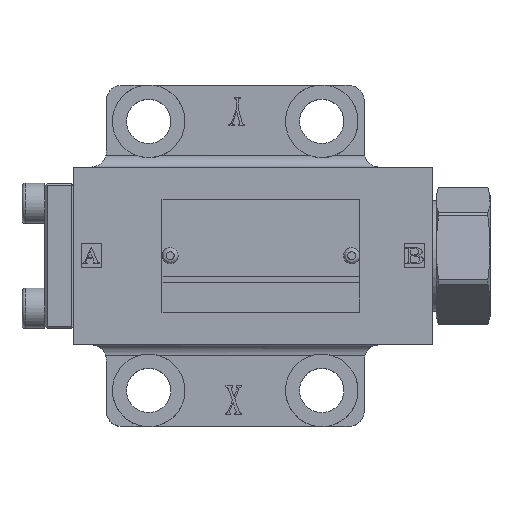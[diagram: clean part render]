
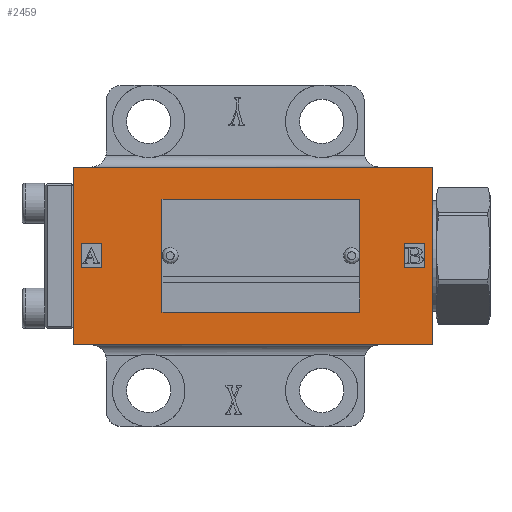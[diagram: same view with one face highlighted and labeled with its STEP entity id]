
A CAD part, top view. The second image highlights one B-rep face of the part: STEP entity #2459.
In plain terms, the highlighted planar face has unit normal (0, 0, 1).
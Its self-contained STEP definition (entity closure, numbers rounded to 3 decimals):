
#2459=ADVANCED_FACE('',(#4304,#4305,#4306,#4307,#4308),#2870,.T.);
#2870=PLANE('',#9965);
#3287=LINE('',#34120,#3853);
#3288=LINE('',#34123,#3854);
#3289=LINE('',#34125,#3855);
#3290=LINE('',#34127,#3856);
#3291=LINE('',#34128,#3857);
#3292=LINE('',#34131,#3858);
#3293=LINE('',#34133,#3859);
#3294=LINE('',#34135,#3860);
#3295=LINE('',#34140,#3861);
#3296=LINE('',#34143,#3862);
#3297=LINE('',#34145,#3863);
#3298=LINE('',#34147,#3864);
#3853=VECTOR('',#11436,1.);
#3854=VECTOR('',#11437,1.);
#3855=VECTOR('',#11438,1.);
#3856=VECTOR('',#11439,1.);
#3857=VECTOR('',#11440,1.);
#3858=VECTOR('',#11441,1.);
#3859=VECTOR('',#11442,1.);
#3860=VECTOR('',#11443,1.);
#3861=VECTOR('',#11448,1.);
#3862=VECTOR('',#11449,1.);
#3863=VECTOR('',#11450,1.);
#3864=VECTOR('',#11451,1.);
#4304=FACE_BOUND('',#4728,.T.);
#4305=FACE_BOUND('',#4729,.T.);
#4306=FACE_BOUND('',#4730,.T.);
#4307=FACE_BOUND('',#4731,.T.);
#4308=FACE_BOUND('',#4732,.T.);
#4728=EDGE_LOOP('',(#6091,#6092,#6093,#6094));
#4729=EDGE_LOOP('',(#6095,#6096,#6097,#6098));
#4730=EDGE_LOOP('',(#6099));
#4731=EDGE_LOOP('',(#6100));
#4732=EDGE_LOOP('',(#6101,#6102,#6103,#6104));
#6091=ORIENTED_EDGE('',*,*,#8751,.F.);
#6092=ORIENTED_EDGE('',*,*,#8752,.F.);
#6093=ORIENTED_EDGE('',*,*,#8753,.F.);
#6094=ORIENTED_EDGE('',*,*,#8754,.F.);
#6095=ORIENTED_EDGE('',*,*,#8755,.F.);
#6096=ORIENTED_EDGE('',*,*,#8756,.F.);
#6097=ORIENTED_EDGE('',*,*,#8757,.F.);
#6098=ORIENTED_EDGE('',*,*,#8758,.F.);
#6099=ORIENTED_EDGE('',*,*,#8759,.F.);
#6100=ORIENTED_EDGE('',*,*,#8760,.F.);
#6101=ORIENTED_EDGE('',*,*,#8761,.F.);
#6102=ORIENTED_EDGE('',*,*,#8762,.F.);
#6103=ORIENTED_EDGE('',*,*,#8763,.F.);
#6104=ORIENTED_EDGE('',*,*,#8764,.F.);
#7825=VERTEX_POINT('',#34121);
#7826=VERTEX_POINT('',#34122);
#7827=VERTEX_POINT('',#34124);
#7828=VERTEX_POINT('',#34126);
#7829=VERTEX_POINT('',#34129);
#7830=VERTEX_POINT('',#34130);
#7831=VERTEX_POINT('',#34132);
#7832=VERTEX_POINT('',#34134);
#7833=VERTEX_POINT('',#34137);
#7834=VERTEX_POINT('',#34139);
#7835=VERTEX_POINT('',#34141);
#7836=VERTEX_POINT('',#34142);
#7837=VERTEX_POINT('',#34144);
#7838=VERTEX_POINT('',#34146);
#8751=EDGE_CURVE('',#7825,#7826,#3287,.T.);
#8752=EDGE_CURVE('',#7827,#7825,#3288,.T.);
#8753=EDGE_CURVE('',#7828,#7827,#3289,.T.);
#8754=EDGE_CURVE('',#7826,#7828,#3290,.T.);
#8755=EDGE_CURVE('',#7829,#7830,#3291,.T.);
#8756=EDGE_CURVE('',#7831,#7829,#3292,.T.);
#8757=EDGE_CURVE('',#7832,#7831,#3293,.T.);
#8758=EDGE_CURVE('',#7830,#7832,#3294,.T.);
#8759=EDGE_CURVE('',#7833,#7833,#9446,.T.);
#8760=EDGE_CURVE('',#7834,#7834,#9447,.T.);
#8761=EDGE_CURVE('',#7835,#7836,#3295,.T.);
#8762=EDGE_CURVE('',#7837,#7835,#3296,.T.);
#8763=EDGE_CURVE('',#7838,#7837,#3297,.T.);
#8764=EDGE_CURVE('',#7836,#7838,#3298,.T.);
#9446=CIRCLE('',#9963,0.95);
#9447=CIRCLE('',#9964,0.95);
#9963=AXIS2_PLACEMENT_3D('',#34136,#11444,#11445);
#9964=AXIS2_PLACEMENT_3D('',#34138,#11446,#11447);
#9965=AXIS2_PLACEMENT_3D('',#34148,#11452,#11453);
#11436=DIRECTION('',(0.,-1.,0.));
#11437=DIRECTION('',(-1.,0.,0.));
#11438=DIRECTION('',(0.,1.,0.));
#11439=DIRECTION('',(1.,0.,0.));
#11440=DIRECTION('',(0.,-1.,0.));
#11441=DIRECTION('',(-1.,0.,0.));
#11442=DIRECTION('',(0.,1.,0.));
#11443=DIRECTION('',(1.,0.,0.));
#11444=DIRECTION('',(0.,0.,1.));
#11445=DIRECTION('',(1.,0.,0.));
#11446=DIRECTION('',(0.,0.,1.));
#11447=DIRECTION('',(1.,0.,0.));
#11448=DIRECTION('',(-1.,0.,0.));
#11449=DIRECTION('',(0.,-1.,0.));
#11450=DIRECTION('',(1.,0.,0.));
#11451=DIRECTION('',(0.,1.,0.));
#11452=DIRECTION('',(0.,0.,1.));
#11453=DIRECTION('',(-1.,0.,0.));
#34120=CARTESIAN_POINT('',(206.361,122.156,0.));
#34121=CARTESIAN_POINT('',(206.361,122.156,0.));
#34122=CARTESIAN_POINT('',(206.361,116.156,0.));
#34123=CARTESIAN_POINT('',(211.361,122.156,0.));
#34124=CARTESIAN_POINT('',(211.361,122.156,0.));
#34125=CARTESIAN_POINT('',(211.361,116.156,0.));
#34126=CARTESIAN_POINT('',(211.361,116.156,0.));
#34127=CARTESIAN_POINT('',(206.361,116.156,0.));
#34128=CARTESIAN_POINT('',(286.361,122.156,0.));
#34129=CARTESIAN_POINT('',(286.361,122.156,0.));
#34130=CARTESIAN_POINT('',(286.361,116.156,0.));
#34131=CARTESIAN_POINT('',(291.361,122.156,0.));
#34132=CARTESIAN_POINT('',(291.361,122.156,0.));
#34133=CARTESIAN_POINT('',(291.361,116.156,0.));
#34134=CARTESIAN_POINT('',(291.361,116.156,0.));
#34135=CARTESIAN_POINT('',(286.361,116.156,0.));
#34136=CARTESIAN_POINT('',(273.361,119.156,0.));
#34137=CARTESIAN_POINT('',(274.311,119.156,0.));
#34138=CARTESIAN_POINT('',(228.361,119.156,0.));
#34139=CARTESIAN_POINT('',(229.311,119.156,0.));
#34140=CARTESIAN_POINT('',(204.361,97.156,0.));
#34141=CARTESIAN_POINT('',(293.361,97.156,0.));
#34142=CARTESIAN_POINT('',(204.361,97.156,0.));
#34143=CARTESIAN_POINT('',(293.361,99.156,0.));
#34144=CARTESIAN_POINT('',(293.361,141.156,0.));
#34145=CARTESIAN_POINT('',(204.361,141.156,0.));
#34146=CARTESIAN_POINT('',(204.361,141.156,0.));
#34147=CARTESIAN_POINT('',(204.361,141.156,0.));
#34148=CARTESIAN_POINT('',(204.361,99.156,0.));
